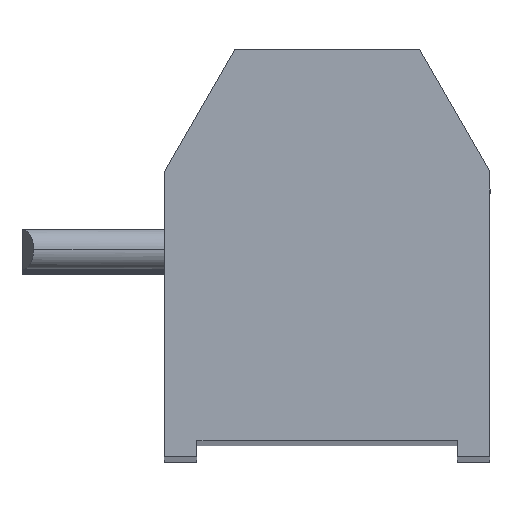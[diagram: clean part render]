
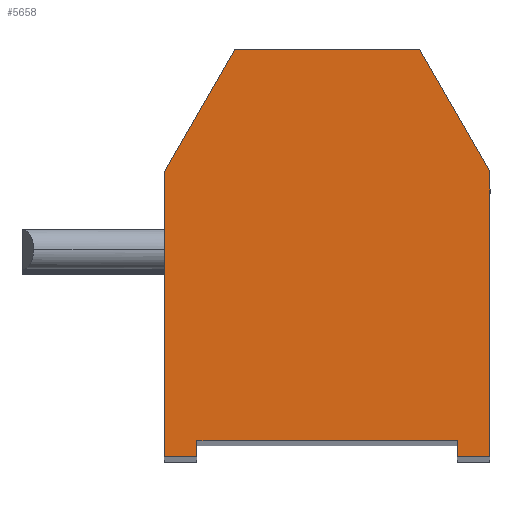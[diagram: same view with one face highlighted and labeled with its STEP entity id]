
A CAD part, top view. The second image highlights one B-rep face of the part: STEP entity #5658.
In plain terms, the highlighted planar face has unit normal (0, 0, 1).
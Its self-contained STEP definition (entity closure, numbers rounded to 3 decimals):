
#3924 = EDGE_CURVE ( 'NONE', #19018, #19030, #20598, .T. ) ;
#3939 = EDGE_CURVE ( 'NONE', #10837, #3940, #20643, .T. ) ;
#3940 = VERTEX_POINT ( 'NONE', #20639 ) ;
#4025 = VERTEX_POINT ( 'NONE', #20669 ) ;
#4027 = EDGE_CURVE ( 'NONE', #4025, #19131, #20668, .T. ) ;
#5658 = ADVANCED_FACE ( 'NONE', ( #22801 ), #22800, .F. ) ;
#5659 = EDGE_LOOP ( 'NONE', ( #5660, #5724, #5725, #5726, #5727, #5728, #5729, #5730, #5731, #5708 ) ) ;
#5660 = ORIENTED_EDGE ( 'NONE', *, *, #5722, .T. ) ;
#5708 = ORIENTED_EDGE ( 'NONE', *, *, #5709, .T. ) ;
#5709 = EDGE_CURVE ( 'NONE', #5733, #5723, #22848, .T. ) ;
#5722 = EDGE_CURVE ( 'NONE', #5723, #3940, #22888, .T. ) ;
#5723 = VERTEX_POINT ( 'NONE', #22884 ) ;
#5724 = ORIENTED_EDGE ( 'NONE', *, *, #3939, .F. ) ;
#5725 = ORIENTED_EDGE ( 'NONE', *, *, #10836, .T. ) ;
#5726 = ORIENTED_EDGE ( 'NONE', *, *, #19034, .T. ) ;
#5727 = ORIENTED_EDGE ( 'NONE', *, *, #3924, .F. ) ;
#5728 = ORIENTED_EDGE ( 'NONE', *, *, #19017, .T. ) ;
#5729 = ORIENTED_EDGE ( 'NONE', *, *, #19134, .T. ) ;
#5730 = ORIENTED_EDGE ( 'NONE', *, *, #4027, .F. ) ;
#5731 = ORIENTED_EDGE ( 'NONE', *, *, #5732, .T. ) ;
#5732 = EDGE_CURVE ( 'NONE', #4025, #5733, #22883, .T. ) ;
#5733 = VERTEX_POINT ( 'NONE', #22879 ) ;
#10834 = VERTEX_POINT ( 'NONE', #32146 ) ;
#10836 = EDGE_CURVE ( 'NONE', #10837, #10834, #32145, .T. ) ;
#10837 = VERTEX_POINT ( 'NONE', #32141 ) ;
#19017 = EDGE_CURVE ( 'NONE', #19018, #19049, #36455, .T. ) ;
#19018 = VERTEX_POINT ( 'NONE', #36451 ) ;
#19030 = VERTEX_POINT ( 'NONE', #36431 ) ;
#19034 = EDGE_CURVE ( 'NONE', #10834, #19030, #36430, .T. ) ;
#19049 = VERTEX_POINT ( 'NONE', #36474 ) ;
#19131 = VERTEX_POINT ( 'NONE', #36542 ) ;
#19134 = EDGE_CURVE ( 'NONE', #19049, #19131, #36541, .T. ) ;
#20595 = DIRECTION ( 'NONE',  ( -1., 0., 0. ) ) ;
#20596 = VECTOR ( 'NONE', #20595, 1000. ) ;
#20597 = CARTESIAN_POINT ( 'NONE',  ( 0., 0.4, 0. ) ) ;
#20598 = LINE ( 'NONE', #20597, #20596 ) ;
#20639 = CARTESIAN_POINT ( 'NONE',  ( -4., 7., 0. ) ) ;
#20640 = DIRECTION ( 'NONE',  ( 0., 1., 0. ) ) ;
#20641 = VECTOR ( 'NONE', #20640, 1000. ) ;
#20642 = CARTESIAN_POINT ( 'NONE',  ( -4., 0., 0. ) ) ;
#20643 = LINE ( 'NONE', #20642, #20641 ) ;
#20665 = DIRECTION ( 'NONE',  ( 0., -1., 0. ) ) ;
#20666 = VECTOR ( 'NONE', #20665, 1000. ) ;
#20667 = CARTESIAN_POINT ( 'NONE',  ( 4., 5., 0. ) ) ;
#20668 = LINE ( 'NONE', #20667, #20666 ) ;
#20669 = CARTESIAN_POINT ( 'NONE',  ( 4., 7., 0. ) ) ;
#22796 = DIRECTION ( 'NONE',  ( -1., 0., 0. ) ) ;
#22797 = DIRECTION ( 'NONE',  ( 0., 0., -1. ) ) ;
#22798 = CARTESIAN_POINT ( 'NONE',  ( 4., 0., 0. ) ) ;
#22799 = AXIS2_PLACEMENT_3D ( 'NONE', #22798, #22797, #22796 ) ;
#22800 = PLANE ( 'NONE',  #22799 ) ;
#22801 = FACE_OUTER_BOUND ( 'NONE', #5659, .T. ) ;
#22845 = DIRECTION ( 'NONE',  ( -1., 0., 0. ) ) ;
#22846 = VECTOR ( 'NONE', #22845, 1000. ) ;
#22847 = CARTESIAN_POINT ( 'NONE',  ( 0., 10., 0. ) ) ;
#22848 = LINE ( 'NONE', #22847, #22846 ) ;
#22879 = CARTESIAN_POINT ( 'NONE',  ( 2.268, 10., 0. ) ) ;
#22880 = DIRECTION ( 'NONE',  ( -0.5, 0.866, 0. ) ) ;
#22881 = VECTOR ( 'NONE', #22880, 1000. ) ;
#22882 = CARTESIAN_POINT ( 'NONE',  ( 3.134, 8.5, 0. ) ) ;
#22883 = LINE ( 'NONE', #22882, #22881 ) ;
#22884 = CARTESIAN_POINT ( 'NONE',  ( -2.268, 10., 0. ) ) ;
#22885 = DIRECTION ( 'NONE',  ( -0.5, -0.866, 0. ) ) ;
#22886 = VECTOR ( 'NONE', #22885, 1000. ) ;
#22887 = CARTESIAN_POINT ( 'NONE',  ( -3.134, 8.5, 0. ) ) ;
#22888 = LINE ( 'NONE', #22887, #22886 ) ;
#32141 = CARTESIAN_POINT ( 'NONE',  ( -4., 0., 0. ) ) ;
#32142 = DIRECTION ( 'NONE',  ( 1., 0., 0. ) ) ;
#32143 = VECTOR ( 'NONE', #32142, 1000. ) ;
#32144 = CARTESIAN_POINT ( 'NONE',  ( -3.6, 0., 0. ) ) ;
#32145 = LINE ( 'NONE', #32144, #32143 ) ;
#32146 = CARTESIAN_POINT ( 'NONE',  ( -3.2, 0., 0. ) ) ;
#36427 = DIRECTION ( 'NONE',  ( 0., 1., 0. ) ) ;
#36428 = VECTOR ( 'NONE', #36427, 1000. ) ;
#36429 = CARTESIAN_POINT ( 'NONE',  ( -3.2, 0.2, 0. ) ) ;
#36430 = LINE ( 'NONE', #36429, #36428 ) ;
#36431 = CARTESIAN_POINT ( 'NONE',  ( -3.2, 0.4, 0. ) ) ;
#36451 = CARTESIAN_POINT ( 'NONE',  ( 3.2, 0.4, 0. ) ) ;
#36452 = DIRECTION ( 'NONE',  ( 0., -1., 0. ) ) ;
#36453 = VECTOR ( 'NONE', #36452, 1000. ) ;
#36454 = CARTESIAN_POINT ( 'NONE',  ( 3.2, 0.2, 0. ) ) ;
#36455 = LINE ( 'NONE', #36454, #36453 ) ;
#36474 = CARTESIAN_POINT ( 'NONE',  ( 3.2, 0., 0. ) ) ;
#36538 = DIRECTION ( 'NONE',  ( 1., 0., 0. ) ) ;
#36539 = VECTOR ( 'NONE', #36538, 1000. ) ;
#36540 = CARTESIAN_POINT ( 'NONE',  ( 3.6, 0., 0. ) ) ;
#36541 = LINE ( 'NONE', #36540, #36539 ) ;
#36542 = CARTESIAN_POINT ( 'NONE',  ( 4., 0., 0. ) ) ;
